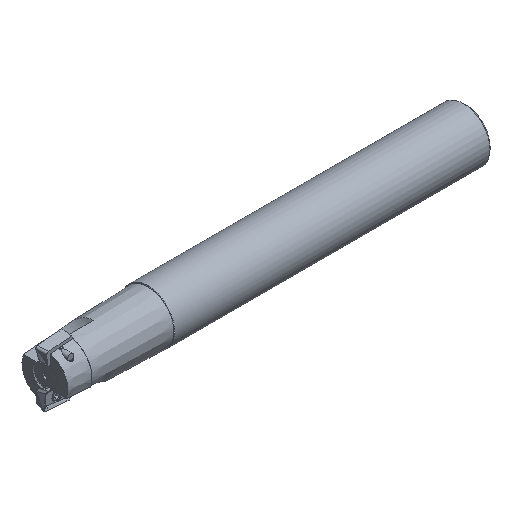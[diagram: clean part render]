
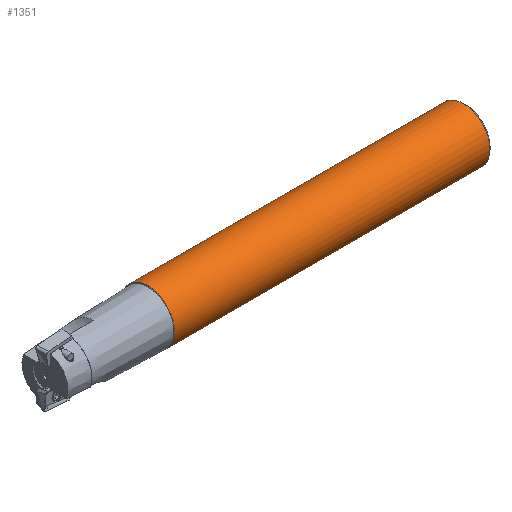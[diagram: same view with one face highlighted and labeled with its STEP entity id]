
A CAD part, isometric view. The second image highlights one B-rep face of the part: STEP entity #1351.
In plain terms, the highlighted cylindrical face has radius 10 mm (diameter 20 mm), a full revolution.
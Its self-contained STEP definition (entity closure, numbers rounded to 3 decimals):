
#148=FACE_OUTER_BOUND('',#224,.T.);
#224=EDGE_LOOP('',(#930,#931,#932,#933,#934,#935));
#330=LINE('',#2203,#406);
#406=VECTOR('',#1720,10.);
#483=CIRCLE('',#1529,10.);
#484=CIRCLE('',#1530,10.);
#486=CIRCLE('',#1534,10.);
#487=CIRCLE('',#1535,10.);
#573=VERTEX_POINT('',#2190);
#574=VERTEX_POINT('',#2191);
#576=VERTEX_POINT('',#2199);
#577=VERTEX_POINT('',#2200);
#714=EDGE_CURVE('',#573,#574,#483,.T.);
#715=EDGE_CURVE('',#574,#573,#484,.T.);
#718=EDGE_CURVE('',#576,#577,#486,.T.);
#719=EDGE_CURVE('',#577,#576,#487,.T.);
#720=EDGE_CURVE('',#577,#574,#330,.T.);
#930=ORIENTED_EDGE('',*,*,#718,.F.);
#931=ORIENTED_EDGE('',*,*,#719,.F.);
#932=ORIENTED_EDGE('',*,*,#720,.T.);
#933=ORIENTED_EDGE('',*,*,#714,.F.);
#934=ORIENTED_EDGE('',*,*,#715,.F.);
#935=ORIENTED_EDGE('',*,*,#720,.F.);
#1330=CYLINDRICAL_SURFACE('',#1533,10.);
#1351=ADVANCED_FACE('',(#148),#1330,.T.);
#1529=AXIS2_PLACEMENT_3D('',#2192,#1705,#1706);
#1530=AXIS2_PLACEMENT_3D('',#2193,#1707,#1708);
#1533=AXIS2_PLACEMENT_3D('',#2198,#1714,#1715);
#1534=AXIS2_PLACEMENT_3D('',#2201,#1716,#1717);
#1535=AXIS2_PLACEMENT_3D('',#2202,#1718,#1719);
#1705=DIRECTION('center_axis',(1.,0.,0.));
#1706=DIRECTION('ref_axis',(0.,0.,1.));
#1707=DIRECTION('center_axis',(1.,0.,0.));
#1708=DIRECTION('ref_axis',(0.,0.,1.));
#1714=DIRECTION('center_axis',(-1.,0.,0.));
#1715=DIRECTION('ref_axis',(0.,0.,-1.));
#1716=DIRECTION('center_axis',(-1.,0.,0.));
#1717=DIRECTION('ref_axis',(0.,0.,1.));
#1718=DIRECTION('center_axis',(-1.,0.,0.));
#1719=DIRECTION('ref_axis',(0.,0.,1.));
#1720=DIRECTION('',(1.,0.,0.));
#2190=CARTESIAN_POINT('',(157.533,0.,-9.8));
#2191=CARTESIAN_POINT('',(157.533,0.,10.2));
#2192=CARTESIAN_POINT('Origin',(157.533,0.,0.2));
#2193=CARTESIAN_POINT('Origin',(157.533,0.,0.2));
#2198=CARTESIAN_POINT('Origin',(98.533,0.,
0.2));
#2199=CARTESIAN_POINT('',(38.533,0.,-9.8));
#2200=CARTESIAN_POINT('',(38.533,0.,10.2));
#2201=CARTESIAN_POINT('Origin',(38.533,0.,
0.2));
#2202=CARTESIAN_POINT('Origin',(38.533,0.,
0.2));
#2203=CARTESIAN_POINT('',(98.533,0.,10.2));
